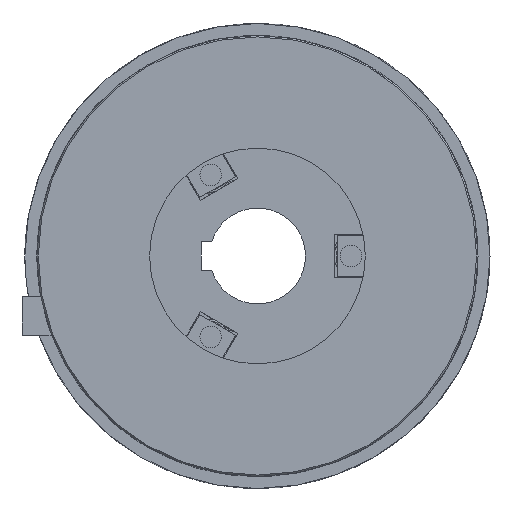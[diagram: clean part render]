
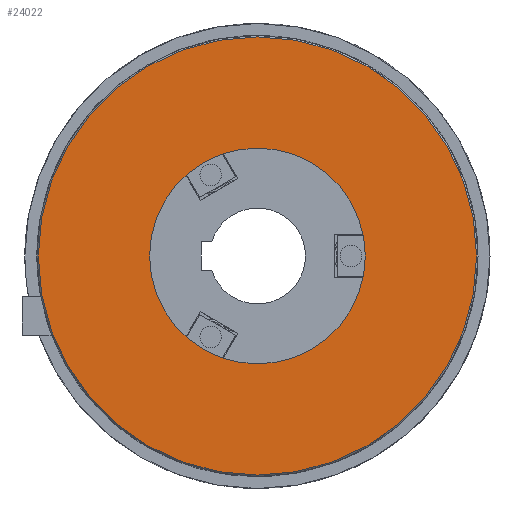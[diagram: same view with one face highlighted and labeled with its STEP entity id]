
A CAD part, left-side view. The second image highlights one B-rep face of the part: STEP entity #24022.
In plain terms, the highlighted planar face has unit normal (-1, 0, 0).
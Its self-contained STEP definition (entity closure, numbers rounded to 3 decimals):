
#2450=FACE_BOUND('',#4687,.T.);
#2697=PLANE('',#25355);
#3408=FACE_OUTER_BOUND('',#4686,.T.);
#4686=EDGE_LOOP('',(#16934));
#4687=EDGE_LOOP('',(#16935));
#10311=CIRCLE('',#25344,45.7);
#10321=CIRCLE('',#25356,22.5);
#10979=VERTEX_POINT('',#32349);
#10995=VERTEX_POINT('',#32385);
#13359=EDGE_CURVE('',#10979,#10979,#10311,.T.);
#13377=EDGE_CURVE('',#10995,#10995,#10321,.T.);
#16934=ORIENTED_EDGE('',*,*,#13359,.F.);
#16935=ORIENTED_EDGE('',*,*,#13377,.F.);
#24022=ADVANCED_FACE('',(#3408,#2450),#2697,.T.);
#25344=AXIS2_PLACEMENT_3D('',#32350,#27012,#27013);
#25355=AXIS2_PLACEMENT_3D('',#32384,#27042,#27043);
#25356=AXIS2_PLACEMENT_3D('',#32386,#27044,#27045);
#27012=DIRECTION('center_axis',(1.,0.,0.));
#27013=DIRECTION('ref_axis',(0.,0.5,0.866));
#27042=DIRECTION('center_axis',(-1.,0.,0.));
#27043=DIRECTION('ref_axis',(0.,0.866,-0.5));
#27044=DIRECTION('center_axis',(-1.,0.,0.));
#27045=DIRECTION('ref_axis',(0.,-0.5,-0.866));
#32349=CARTESIAN_POINT('',(-77.,-22.85,-39.577));
#32350=CARTESIAN_POINT('Origin',(-77.,0.,0.));
#32384=CARTESIAN_POINT('Origin',(-77.,-17.125,-29.661));
#32385=CARTESIAN_POINT('',(-77.,11.25,19.486));
#32386=CARTESIAN_POINT('Origin',(-77.,0.,0.));
